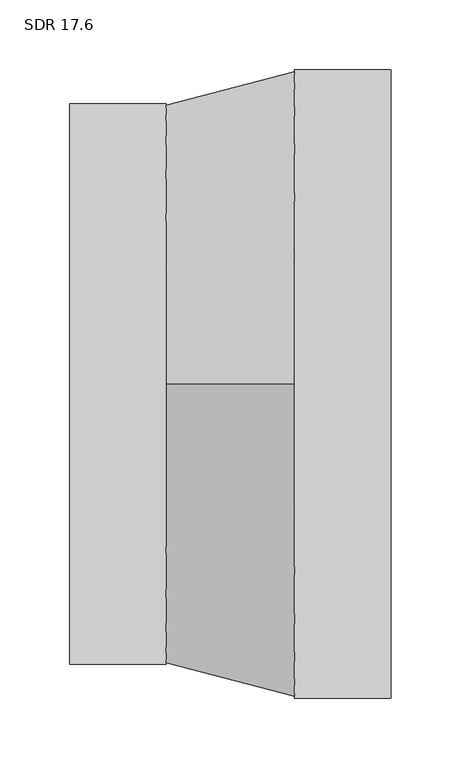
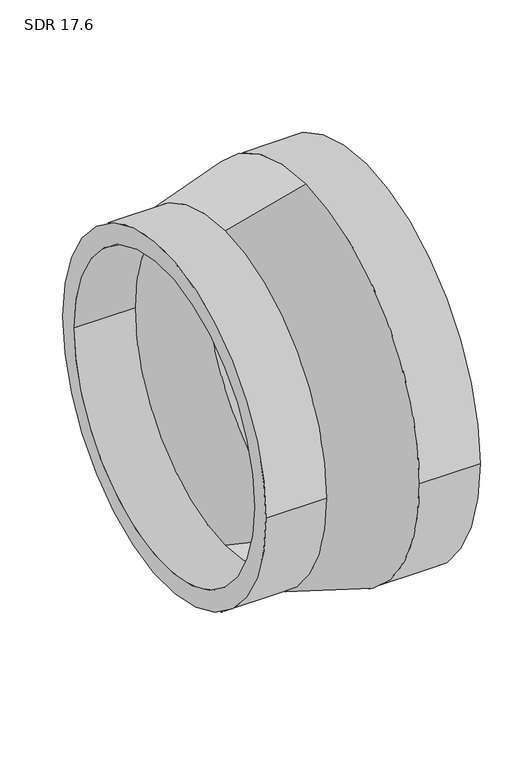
"""IFC4 building model written with IfcOpenShell, lengths in millimetres: pipe fitting geometry, Aquatherm - Reducing Coupling Combined - METRIC : SDR 17.6."""

from ifc_helpers import new_model, si_unit, frame, origin, place, context, project, spatial, polyline, circle_curve, source, transform, mapped, element, save
from ifc_brep_helpers import plane_surface, cylinder_surface, revolved_surface, advanced_brep


def sdr_17_6_853a3ff9(model_context):
    return source(origin(), model_context, "Body", "AdvancedBrep", [
        advanced_brep(
        [(-115.062, -200.66, 0.0), (-115.062, 200.66, 0.0), (-115.062, -177.8577273, 0.0), (-115.062, 177.8577273, 0.0), (-46.0248, 177.8577273, 0.0), (-46.0248, 0.0, 177.8577273), (-46.0248, -177.8577273, 0.0), (-46.0248, 0.0, -177.8577273), (-46.0248, 200.66, 0.0), (-46.0248, 0.0, -200.66), (-46.0248, -200.66, 0.0), (-46.0248, 0.0, 200.66), (115.062, -224.79, 0.0), (115.062, 224.79, 0.0), (115.062, -199.2456818, 0.0), (115.062, 199.2456818, 0.0), (46.0248, -224.79, 0.0), (46.0248, 0.0, -224.79), (46.0248, 224.79, 0.0), (46.0248, 0.0, 224.79), (46.0248, -199.2456818, 0.0), (46.0248, 0.0, 199.2456818), (46.0248, 199.2456818, 0.0), (46.0248, 0.0, -199.2456818)],
        [
            (0, 1, circle_curve(frame((-115.062, 0.0, 0.0), z_axis=(-1.0, 0.0, 0.0), x_axis=(0.0, 1.0, 0.0)), 200.66)),
            (1, 0, circle_curve(frame((-115.062, 0.0, 0.0), z_axis=(-1.0, 0.0, 0.0), x_axis=(0.0, 1.0, 0.0)), 200.66)),
            (2, 3, circle_curve(frame((-115.062, 0.0, 0.0), z_axis=(1.0, 0.0, 0.0), x_axis=(0.0, 1.0, 0.0)), 177.8577273)),
            (3, 2, circle_curve(frame((-115.062, 0.0, 0.0), z_axis=(1.0, 0.0, 0.0), x_axis=(0.0, 1.0, 0.0)), 177.8577273)),
            (3, 4),
            (4, 5, circle_curve(frame((-46.0248, 0.0, 0.0), z_axis=(1.0, 0.0, 0.0), x_axis=(0.0, 1.0, 0.0)), 177.8577273)),
            (5, 6, circle_curve(frame((-46.0248, 0.0, 0.0), z_axis=(1.0, 0.0, 0.0), x_axis=(0.0, 1.0, 0.0)), 177.8577273)),
            (6, 2),
            (6, 7, circle_curve(frame((-46.0248, 0.0, 0.0), z_axis=(1.0, 0.0, 0.0), x_axis=(0.0, 1.0, 0.0)), 177.8577273)),
            (7, 4, circle_curve(frame((-46.0248, 0.0, 0.0), z_axis=(1.0, 0.0, 0.0), x_axis=(0.0, 1.0, 0.0)), 177.8577273)),
            (1, 8),
            (8, 9, circle_curve(frame((-46.0248, 0.0, 0.0), z_axis=(-1.0, 0.0, 0.0), x_axis=(0.0, 1.0, 0.0)), 200.66)),
            (9, 10, circle_curve(frame((-46.0248, 0.0, 0.0), z_axis=(-1.0, 0.0, 0.0), x_axis=(0.0, 1.0, 0.0)), 200.66)),
            (10, 0),
            (10, 11, circle_curve(frame((-46.0248, 0.0, 0.0), z_axis=(-1.0, 0.0, 0.0), x_axis=(0.0, 1.0, 0.0)), 200.66)),
            (11, 8, circle_curve(frame((-46.0248, 0.0, 0.0), z_axis=(-1.0, 0.0, 0.0), x_axis=(0.0, 1.0, 0.0)), 200.66)),
            (12, 13, circle_curve(frame((115.062, 0.0, 0.0), z_axis=(1.0, 0.0, 0.0), x_axis=(0.0, 1.0, 0.0)), 224.79)),
            (13, 12, circle_curve(frame((115.062, 0.0, 0.0), z_axis=(1.0, 0.0, 0.0), x_axis=(0.0, 1.0, 0.0)), 224.79)),
            (14, 15, circle_curve(frame((115.062, 0.0, 0.0), z_axis=(-1.0, 0.0, 0.0), x_axis=(0.0, 1.0, 0.0)), 199.2456818)),
            (15, 14, circle_curve(frame((115.062, 0.0, 0.0), z_axis=(-1.0, 0.0, 0.0), x_axis=(0.0, 1.0, 0.0)), 199.2456818)),
            (12, 16),
            (16, 17, circle_curve(frame((46.0248, 0.0, 0.0), z_axis=(1.0, 0.0, 0.0), x_axis=(0.0, 1.0, 0.0)), 224.79)),
            (17, 18, circle_curve(frame((46.0248, 0.0, 0.0), z_axis=(1.0, 0.0, 0.0), x_axis=(0.0, 1.0, 0.0)), 224.79)),
            (18, 13),
            (18, 19, circle_curve(frame((46.0248, 0.0, 0.0), z_axis=(1.0, 0.0, 0.0), x_axis=(0.0, 1.0, 0.0)), 224.79)),
            (19, 16, circle_curve(frame((46.0248, 0.0, 0.0), z_axis=(1.0, 0.0, 0.0), x_axis=(0.0, 1.0, 0.0)), 224.79)),
            (14, 20),
            (20, 21, circle_curve(frame((46.0248, 0.0, 0.0), z_axis=(-1.0, 0.0, 0.0), x_axis=(0.0, 1.0, 0.0)), 199.2456818)),
            (21, 22, circle_curve(frame((46.0248, 0.0, 0.0), z_axis=(-1.0, 0.0, 0.0), x_axis=(0.0, 1.0, 0.0)), 199.2456818)),
            (22, 15),
            (22, 23, circle_curve(frame((46.0248, 0.0, 0.0), z_axis=(-1.0, 0.0, 0.0), x_axis=(0.0, 1.0, 0.0)), 199.2456818)),
            (23, 20, circle_curve(frame((46.0248, 0.0, 0.0), z_axis=(-1.0, 0.0, 0.0), x_axis=(0.0, 1.0, 0.0)), 199.2456818)),
            (11, 19),
            (17, 9),
            (21, 5),
            (7, 23),
        ],
        [
            plane_surface(frame((-115.062, 177.8577273, 0.0), z_axis=(-1.0, 0.0, 0.0), x_axis=(0.0, 0.0, 1.0))),
            revolved_surface(polyline([(-115.062, 177.8577273, 0.0), (-46.0248, 177.8577273, 0.0)]), (-115.062, 0.0, 0.0), (-1.0, 0.0, 0.0)),
            cylinder_surface(frame((0.0, 0.0, 0.0), z_axis=(1.0, 0.0, 0.0), x_axis=(0.0, 1.0, 0.0)), 200.66),
            plane_surface(frame((115.062, 224.79, 0.0), z_axis=(1.0, 0.0, 0.0), x_axis=(0.0, 0.0, 1.0))),
            cylinder_surface(frame((46.0248, 0.0, 0.0), z_axis=(1.0, 0.0, 0.0), x_axis=(0.0, 1.0, 0.0)), 224.79),
            revolved_surface(polyline([(46.0248, 199.2456818, 0.0), (115.062, 199.2456818, 0.0)]), (0.0, 0.0, 0.0), (-1.0, 0.0, 0.0)),
            revolved_surface(polyline([(46.0248, 0.0, 224.79), (-46.0248, 0.0, 200.66)]), (-690.3215384, 0.0, 0.0), (-1.0, 0.0, 0.0)),
            revolved_surface(polyline([(-46.0248, 0.0, 177.8577273), (46.0248, 0.0, 199.2456818)]), (-690.3215384, 0.0, 0.0), (-1.0, 0.0, 0.0)),
        ],
        [
            (0, [[1, 2], [3, 4]]),
            (1, [[-4, 5, 6, 7, 8]]),
            (1, [[-3, -8, 9, 10, -5]]),
            (2, [[-2, 11, 12, 13, 14]]),
            (2, [[-1, -14, 15, 16, -11]]),
            (3, [[17, 18], [19, 20]]),
            (4, [[-17, 21, 22, 23, 24]]),
            (4, [[-18, -24, 25, 26, -21]]),
            (5, [[-19, 27, 28, 29, 30]]),
            (5, [[-20, -30, 31, 32, -27]]),
            (6, [[33, -25, -23, 34, -12, -16]]),
            (6, [[-33, -15, -13, -34, -22, -26]]),
            (7, [[35, -6, -10, 36, -31, -29]]),
            (7, [[-35, -28, -32, -36, -9, -7]]),
        ],
    ),
    ])


if __name__ == "__main__":
    model = new_model("IFC4")
    model_context = context("Model", 3, world=origin())
    ifc_project = project(units=[si_unit("LENGTHUNIT", "METRE", prefix="MILLI")], contexts=[model_context])
    site = spatial("IfcSite", under=ifc_project)
    building = spatial("IfcBuilding", under=site)
    placement = place(None, origin())
    sdr_17_6_shape = sdr_17_6_853a3ff9(model_context)
    element("IfcPipeFitting", 1, ObjectType="Aquatherm - Reducing Coupling Combined - METRIC : SDR 17.6", at=placement, inside=building, context=model_context, shape_type="MappedRepresentation", body=[
        mapped(sdr_17_6_shape, transform((0.0, 0.0, 0.0), x_axis=(1.0, 0.0, 0.0), y_axis=(0.0, 1.0, 0.0), z_axis=(0.0, 0.0, 1.0))),
    ])
    save(model, "model.ifc")
